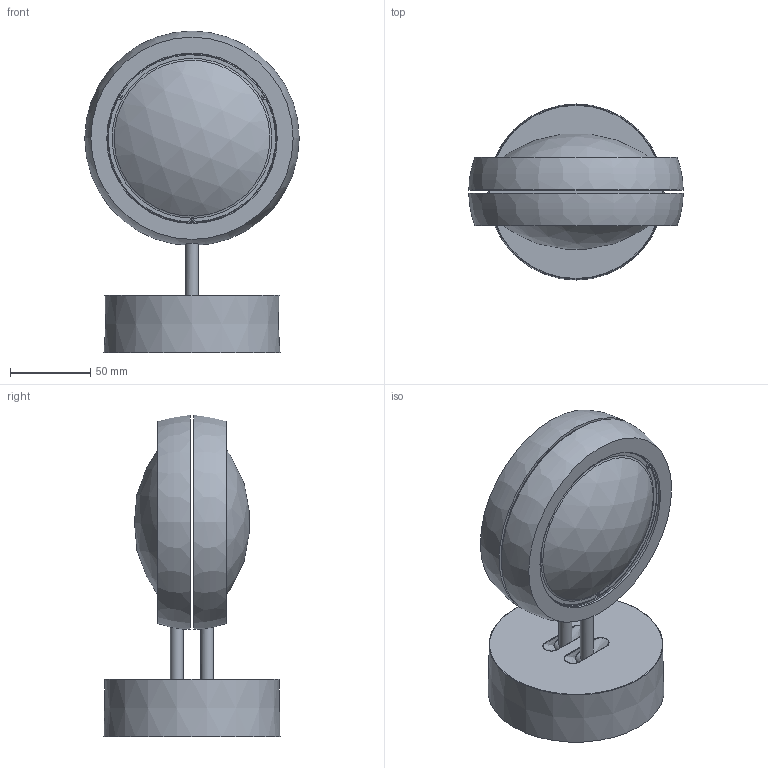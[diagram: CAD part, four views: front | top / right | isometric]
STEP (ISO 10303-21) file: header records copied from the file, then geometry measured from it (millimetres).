
FILE_DESCRIPTION (( 'STEP AP214' ), '1' );
FILE_NAME ('Nautilus Wall DTW_240507_sito.STEP', '2024-05-07T12:36:38', ( '' ), ( '' ), 'SwSTEP 2.0', 'SolidWorks 2023', '' );
FILE_SCHEMA (( 'AUTOMOTIVE_DESIGN' ));
Length unit declared in the file: millimetre
Products named in the file (31): LNS-001_02; MIN-0009_M4; VIT-TC_IC_VIT-0034; Nautilus Wall DTW_240507_sito; 200088_Rev01; MIN-0191_00; MIN-0221_Steab_5515-1; LED-0197_LAYOUT DEFINITIVO; 201898_03; THE-0005_0.1; 202064_Rev02; O-R_OR_1.78x4.48; 219M001_110 - 2X6W; VIT-TC_IC_VIT-0032; 201895_Rev10; 202092_Rev00; 201914_Rev01; MOR-0045; VIT-TSP_IC_VIT-0044; VIT-TC_IC_VIT-0026; 200092_Rev01; TRA-0243_01; VIT-TC_IC_VIT-0128; 219M005_00; 202023_Rev05; GRA-EI_EP_GRA-118; MIN-0117_Acetato d.105; GRA-EI_EC_GRA-110; 219M002_con fori scatola 60; MIN-0089; RAN-Dent_Est_RAN-102
Assembly tree (71 placements, depth 2):
  Nautilus Wall DTW_240507_sito
    201898_03
    219M001_110 - 2X6W
    200088_Rev01
    201895_Rev10  x2
    202023_Rev05  x2
    200092_Rev01  x2
    202064_Rev02  x2
    201914_Rev01  x2
    LNS-001_02  x2
    219M005_00  x2
    VIT-TSP_IC_VIT-0044  x4
    MIN-0009_M4
    RAN-Dent_Est_RAN-102  x2
    VIT-TC_IC_VIT-0032  x2
    202092_Rev00  x2
    O-R_OR_1.78x4.48  x4
    MIN-0117_Acetato d.105  x2
    GRA-EI_EP_GRA-118  x2
    THE-0005_0.1  x2
    VIT-TC_IC_VIT-0034  x4
    GRA-EI_EC_GRA-110
    MIN-0089
    219M002_con fori scatola 60
    MOR-0045  x4
    TRA-0243_01  x2
    LED-0197_LAYOUT DEFINITIVO  x2
    MIN-0191_00  x2
    VIT-TC_IC_VIT-0128  x6
    VIT-TC_IC_VIT-0026  x4
    MIN-0221_Steab_5515-1  x6
Bounding box: 134.01 x 110 x 201.15 mm (x, y, z)
Volume: 707369.6 mm3; surface area: 374438.3 mm2
Topology: 86 solids, 86 shells, 2568 faces, 6293 edges, 3980 vertices
Faces by surface type: plane 1314, bspline 461, cylinder 407, cone 210, torus 113, sphere 63
Full cylindrical faces by diameter (mm): 1 x12, 1.5 x2, 1.62 x2, 2.05 x6, 2.4 x14, 2.5 x16, 2.6 x6, 3 x6, 3.22 x2, 3.3 x12, 4 x11, 4.2 x2, 4.3 x6, 4.5 x18, 4.75 x6, 5 x2, 5.6 x4, 6 x4, 7.5 x4, 8 x8, 8.2 x2, 8.4 x2, 10 x3, 32 x2, 53 x2, 63.5 x2, 75 x4, 105 x2, 105.4 x2, 105.5 x2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
Entity records: 46371 total; most frequent: CARTESIAN_POINT 17282, ORIENTED_EDGE 5758, DIRECTION 5410, EDGE_CURVE 2879, AXIS2_PLACEMENT_3D 1942, VERTEX_POINT 1882, EDGE_LOOP 1601, VECTOR 1526
